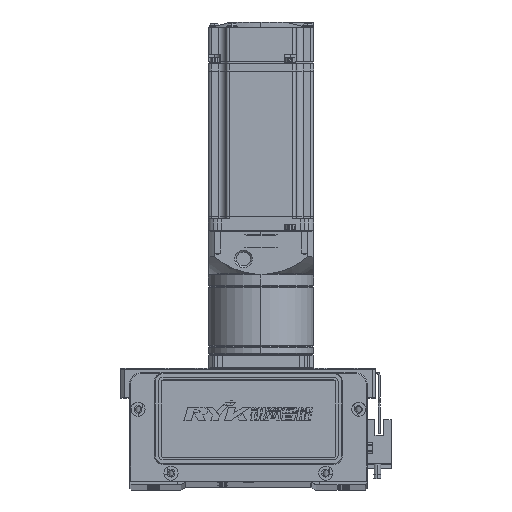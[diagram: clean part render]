
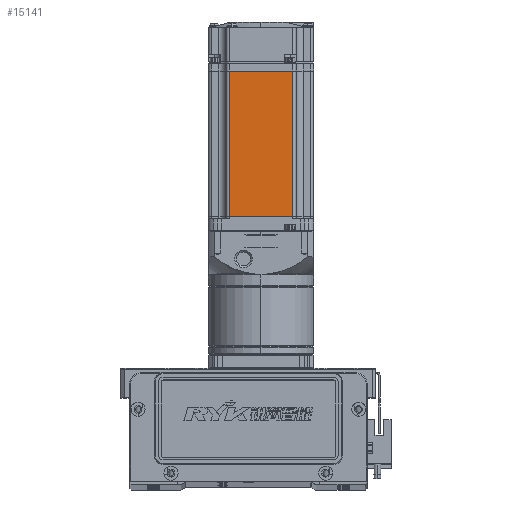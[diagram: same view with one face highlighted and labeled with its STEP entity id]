
A CAD part, top view. The second image highlights one B-rep face of the part: STEP entity #15141.
In plain terms, the highlighted planar face has unit normal (0, 0, 1).
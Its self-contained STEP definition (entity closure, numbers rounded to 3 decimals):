
#312 = ORIENTED_EDGE ( 'NONE', *, *, #77316, .F. ) ;
#4800 = CARTESIAN_POINT ( 'NONE',  ( -6.5, 18., 30. ) ) ;
#4894 = VERTEX_POINT ( 'NONE', #24671 ) ;
#6434 = CARTESIAN_POINT ( 'NONE',  ( -90.45, 0., 30. ) ) ;
#11798 = EDGE_CURVE ( 'NONE', #52956, #4894, #49606, .T. ) ;
#15141 = ADVANCED_FACE ( 'NONE', ( #77179 ), #34155, .T. ) ;
#16552 = CARTESIAN_POINT ( 'NONE',  ( -7.75, 0., 30. ) ) ;
#20768 = DIRECTION ( 'NONE',  ( 1., 0., 0. ) ) ;
#21043 = VECTOR ( 'NONE', #81633, 1000. ) ;
#24671 = CARTESIAN_POINT ( 'NONE',  ( -90.45, -18., 30. ) ) ;
#28937 = VECTOR ( 'NONE', #77608, 1000. ) ;
#29750 = ORIENTED_EDGE ( 'NONE', *, *, #45233, .F. ) ;
#32964 = LINE ( 'NONE', #51400, #28937 ) ;
#34089 = LINE ( 'NONE', #16552, #37080 ) ;
#34155 = PLANE ( 'NONE',  #50336 ) ;
#35157 = EDGE_CURVE ( 'NONE', #46447, #52956, #69831, .T. ) ;
#37080 = VECTOR ( 'NONE', #60208, 1000. ) ;
#40838 = VERTEX_POINT ( 'NONE', #58038 ) ;
#44096 = CARTESIAN_POINT ( 'NONE',  ( -7.75, 18., 30. ) ) ;
#45233 = EDGE_CURVE ( 'NONE', #46447, #40838, #34089, .T. ) ;
#46305 = CARTESIAN_POINT ( 'NONE',  ( -6.5, -25., 30. ) ) ;
#46447 = VERTEX_POINT ( 'NONE', #44096 ) ;
#49606 = LINE ( 'NONE', #6434, #66596 ) ;
#50336 = AXIS2_PLACEMENT_3D ( 'NONE', #46305, #71372, #20768 ) ;
#51400 = CARTESIAN_POINT ( 'NONE',  ( -6.5, -18., 30. ) ) ;
#52501 = ORIENTED_EDGE ( 'NONE', *, *, #11798, .T. ) ;
#52956 = VERTEX_POINT ( 'NONE', #80791 ) ;
#56789 = DIRECTION ( 'NONE',  ( 0., -1., 0. ) ) ;
#58038 = CARTESIAN_POINT ( 'NONE',  ( -7.75, -18., 30. ) ) ;
#60208 = DIRECTION ( 'NONE',  ( 0., -1., 0. ) ) ;
#66596 = VECTOR ( 'NONE', #56789, 1000. ) ;
#69831 = LINE ( 'NONE', #4800, #21043 ) ;
#71372 = DIRECTION ( 'NONE',  ( 0., 0., 1. ) ) ;
#77179 = FACE_OUTER_BOUND ( 'NONE', #79598, .T. ) ;
#77316 = EDGE_CURVE ( 'NONE', #40838, #4894, #32964, .T. ) ;
#77608 = DIRECTION ( 'NONE',  ( -1., 0., 0. ) ) ;
#78228 = ORIENTED_EDGE ( 'NONE', *, *, #35157, .T. ) ;
#79598 = EDGE_LOOP ( 'NONE', ( #29750, #78228, #52501, #312 ) ) ;
#80791 = CARTESIAN_POINT ( 'NONE',  ( -90.45, 18., 30. ) ) ;
#81633 = DIRECTION ( 'NONE',  ( -1., 0., 0. ) ) ;
